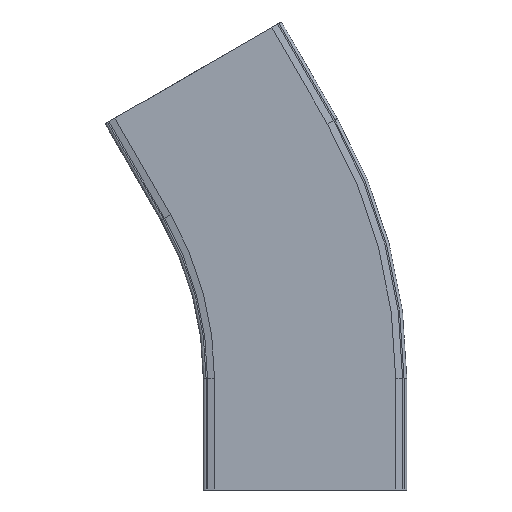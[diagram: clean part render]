
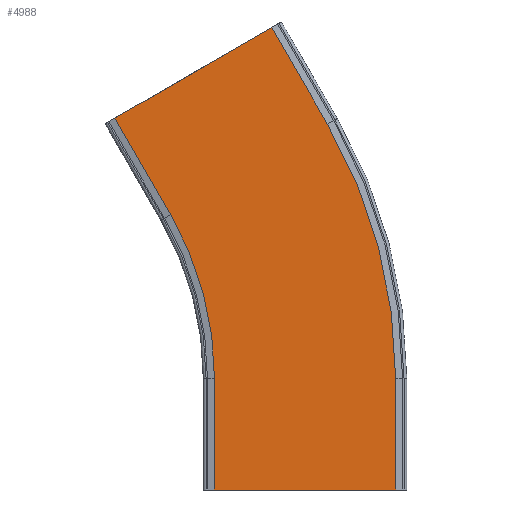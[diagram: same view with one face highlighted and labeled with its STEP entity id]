
A CAD part, front view. The second image highlights one B-rep face of the part: STEP entity #4988.
In plain terms, the highlighted planar face has unit normal (0, -1, 0).
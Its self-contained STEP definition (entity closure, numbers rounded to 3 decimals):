
#4745=CARTESIAN_POINT('',(104.,-74.,0.0));
#4746=VERTEX_POINT('',#4745);
#4753=CARTESIAN_POINT('',(-26.,-74.,0.0));
#4754=VERTEX_POINT('',#4753);
#4755=CARTESIAN_POINT('',(-26.,-74.,0.0));
#4756=DIRECTION('',(1.0,0.0,0.0));
#4757=VECTOR('',#4756,130.);
#4758=LINE('',#4755,#4757);
#4759=EDGE_CURVE('',#4754,#4746,#4758,.T.);
#4814=CARTESIAN_POINT('',(-26.,-74.,80.0));
#4815=VERTEX_POINT('',#4814);
#4824=CARTESIAN_POINT('',(-26.,-74.,0.0));
#4825=DIRECTION('',(0.0,0.0,1.0));
#4826=VECTOR('',#4825,80.0);
#4827=LINE('',#4824,#4826);
#4828=EDGE_CURVE('',#4754,#4815,#4827,.T.);
#4838=CARTESIAN_POINT('',(104.,-74.,80.0));
#4839=VERTEX_POINT('',#4838);
#4848=CARTESIAN_POINT('',(104.,-74.,0.0));
#4849=DIRECTION('',(0.0,0.0,1.0));
#4850=VECTOR('',#4849,80.0);
#4851=LINE('',#4848,#4850);
#4852=EDGE_CURVE('',#4746,#4839,#4851,.T.);
#4871=CARTESIAN_POINT('',(-57.484,-74.,197.5));
#4872=VERTEX_POINT('',#4871);
#4887=CARTESIAN_POINT('',(-261.,-74.,80.0));
#4888=DIRECTION('',(0.0,-1.0,0.0));
#4889=DIRECTION('',(1.0,0.0,0.0));
#4890=AXIS2_PLACEMENT_3D('',#4887,#4888,#4889);
#4891=CIRCLE('',#4890,235.);
#4892=EDGE_CURVE('',#4815,#4872,#4891,.T.);
#4946=CARTESIAN_POINT('',(173.639,-74.,57.183));
#4947=DIRECTION('',(0.0,-1.0,0.0));
#4948=DIRECTION('',(0.5,0.0,-0.866));
#4949=AXIS2_PLACEMENT_3D('',#4946,#4947,#4948);
#4950=PLANE('',#4949);
#4951=CARTESIAN_POINT('',(15.099,-74.,331.782));
#4952=VERTEX_POINT('',#4951);
#4953=CARTESIAN_POINT('',(-97.484,-74.,266.782));
#4954=VERTEX_POINT('',#4953);
#4955=CARTESIAN_POINT('',(15.099,-74.,331.782));
#4956=DIRECTION('',(-0.866,0.,-0.5));
#4957=VECTOR('',#4956,130.);
#4958=LINE('',#4955,#4957);
#4959=EDGE_CURVE('',#4952,#4954,#4958,.T.);
#4960=ORIENTED_EDGE('',*,*,#4959,.T.);
#4961=CARTESIAN_POINT('',(-57.484,-74.,197.5));
#4962=DIRECTION('',(-0.5,0.,0.866));
#4963=VECTOR('',#4962,80.);
#4964=LINE('',#4961,#4963);
#4965=EDGE_CURVE('',#4872,#4954,#4964,.T.);
#4966=ORIENTED_EDGE('',*,*,#4965,.F.);
#4967=ORIENTED_EDGE('',*,*,#4892,.F.);
#4968=ORIENTED_EDGE('',*,*,#4828,.F.);
#4969=ORIENTED_EDGE('',*,*,#4759,.T.);
#4970=ORIENTED_EDGE('',*,*,#4852,.T.);
#4971=CARTESIAN_POINT('',(55.099,-74.,262.5));
#4972=VERTEX_POINT('',#4971);
#4973=CARTESIAN_POINT('',(-261.,-74.,80.0));
#4974=DIRECTION('',(0.0,-1.0,0.0));
#4975=DIRECTION('',(1.0,0.0,0.0));
#4976=AXIS2_PLACEMENT_3D('',#4973,#4974,#4975);
#4977=CIRCLE('',#4976,365.);
#4978=EDGE_CURVE('',#4839,#4972,#4977,.T.);
#4979=ORIENTED_EDGE('',*,*,#4978,.T.);
#4980=CARTESIAN_POINT('',(55.099,-74.,262.5));
#4981=DIRECTION('',(-0.5,0.,0.866));
#4982=VECTOR('',#4981,80.);
#4983=LINE('',#4980,#4982);
#4984=EDGE_CURVE('',#4972,#4952,#4983,.T.);
#4985=ORIENTED_EDGE('',*,*,#4984,.T.);
#4986=EDGE_LOOP('',(#4960,#4966,#4967,#4968,#4969,#4970,#4979,#4985));
#4987=FACE_OUTER_BOUND('',#4986,.T.);
#4988=ADVANCED_FACE('',(#4987),#4950,.T.);
